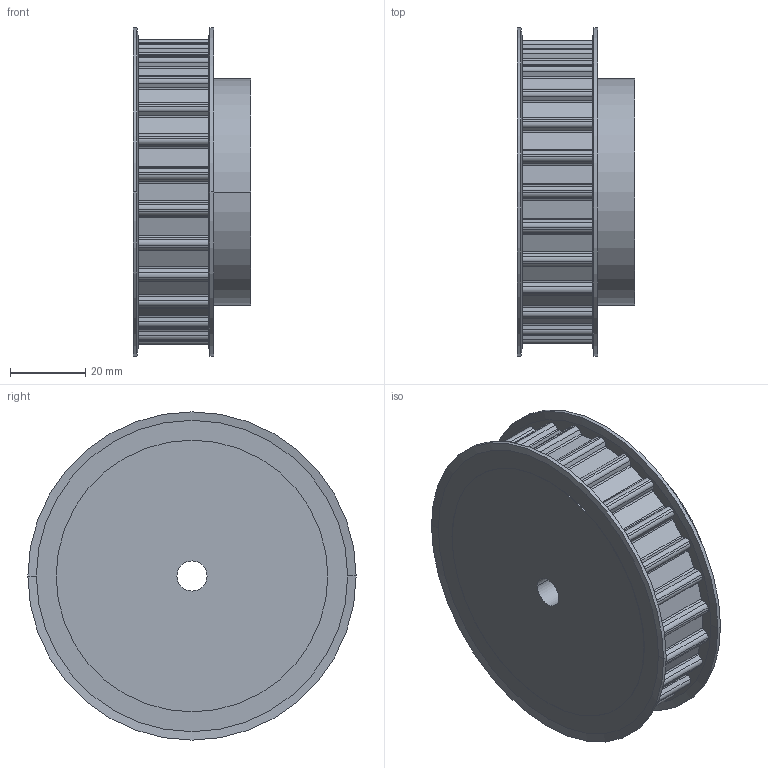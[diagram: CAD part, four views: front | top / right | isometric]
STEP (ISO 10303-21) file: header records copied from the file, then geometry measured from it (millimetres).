
FILE_DESCRIPTION( ( '' ), '1' );
FILE_NAME( 'C:/Users/Stangenbergd/Documents/CAD_Step/1/16822600.stp', '2021-10-19T09:44:03', ( '' ), ( '' ), ' ', ' ', ' ' );
FILE_SCHEMA( ( 'CONFIG_CONTROL_DESIGN' ) );
Length unit declared in the file: millimetre
Products named in the file (1): 1
Bounding box: 31.17 x 87 x 87 mm (x, y, z)
Volume: 128721 mm3; surface area: 23287.4 mm2
Topology: 1 solids, 1 shells, 235 faces, 676 edges, 448 vertices
Faces by surface type: cylinder 142, plane 85, cone 8
Entity records: 7866 total; most frequent: DIRECTION 1440, CARTESIAN_POINT 1360, ORIENTED_EDGE 1352, EDGE_CURVE 676, AXIS2_PLACEMENT_3D 528, VERTEX_POINT 448, LINE 384, VECTOR 384
